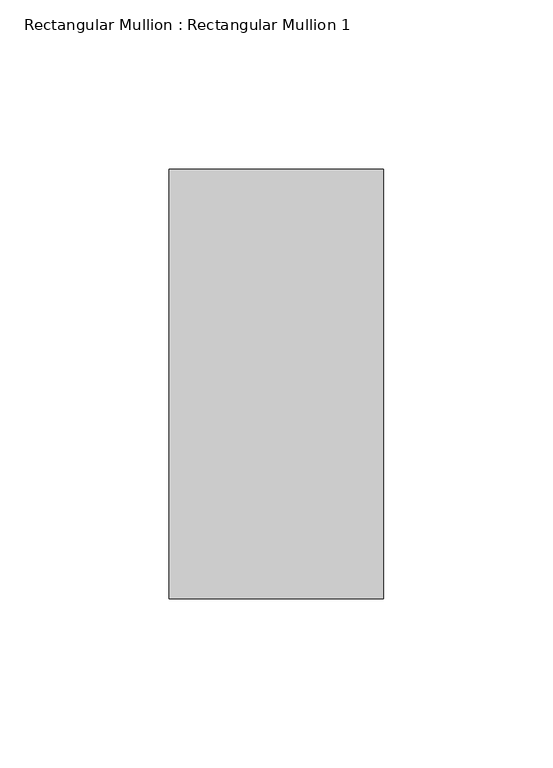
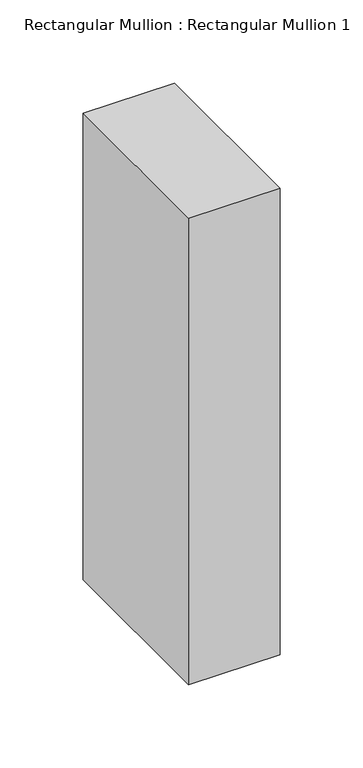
"""IFC4 building model written with IfcOpenShell, lengths in millimetres: member geometry, Rectangular Mullion : Rectangular Mullion 1."""

import ifcopenshell
import ifcopenshell.guid

model = None  # the IFC model being written
_history = None  # IfcOwnerHistory: only IFC2X3 demands one
_inside = {}  # id of a spatial element -> (the spatial element, [elements in it])
_under = {}  # id of a project, library or spatial element -> (it, [spatial elements below it])
_declared = {}  # id of a project -> (the project, [libraries it declares])
_typed = {}  # id of a type object -> (the type object, [elements of that type])
_made_of = {}  # id of a material, layer set ... -> (it, [elements and type objects made of it])


def new_model(schema):
    """Start an empty IFC model of exactly this schema.

    Asked for "IFC4X3", IfcOpenShell would pick the latest addendum, in which some entities
    have other attributes; the version numbers below select the first issue.
    IFC2X3 requires an IfcOwnerHistory on every rooted entity: one is made here for all.
    """
    global model, _history
    if schema == "IFC4X3":
        model = ifcopenshell.file(schema_version=(4, 3, 0, 0))
    else:
        model = ifcopenshell.file(schema=schema)
    _inside.clear()
    _under.clear()
    _declared.clear()
    _typed.clear()
    _made_of.clear()
    _history = None
    if model.schema == "IFC2X3":
        org = make("IfcOrganization", Name="unknown")
        user = make(
            "IfcPersonAndOrganization",
            ThePerson=make("IfcPerson", FamilyName="unknown"),
            TheOrganization=org,
        )
        app = make(
            "IfcApplication",
            ApplicationDeveloper=org,
            Version="unknown",
            ApplicationFullName="unknown",
            ApplicationIdentifier="unknown",
        )
        _history = make(
            "IfcOwnerHistory",
            OwningUser=user,
            OwningApplication=app,
            ChangeAction="ADDED",
            CreationDate=0,
        )
    return model


def make(cls, **values):
    """One entity of the class cls with the attributes given. An attribute that is None is left unset."""
    return model.create_entity(
        cls, **{name: value for name, value in values.items() if value is not None}
    )


def rooted(cls, **values):
    """An entity with a GlobalId (a new one), such as an element, a storey or a relation."""
    return make(cls, GlobalId=ifcopenshell.guid.new(), OwnerHistory=_history, **values)


def si_unit(unit_type, name, prefix=None):
    """IfcSIUnit, for example si_unit("LENGTHUNIT", "METRE", prefix="MILLI")."""
    return make("IfcSIUnit", UnitType=unit_type, Prefix=prefix, Name=name)


def assignment(units):
    """IfcUnitAssignment: the units of a project."""
    return None if units is None else make("IfcUnitAssignment", Units=units)


def point(xyz):
    """IfcCartesianPoint."""
    return None if xyz is None else make("IfcCartesianPoint", Coordinates=xyz)


def direction(xyz):
    """IfcDirection."""
    return None if xyz is None else make("IfcDirection", DirectionRatios=xyz)


def frame(location, z_axis=None, x_axis=None):
    """IfcAxis2Placement3D, a coordinate frame: its origin and axes. An axis left out is left unset."""
    return make(
        "IfcAxis2Placement3D",
        Location=point(location),
        Axis=direction(z_axis),
        RefDirection=direction(x_axis),
    )


def origin():
    """The frame at (0, 0, 0) with its axes left unset."""
    return frame((0.0, 0.0, 0.0))


def place(relative_to, where):
    """IfcLocalPlacement: puts the frame where relative to a parent placement (None: the world)."""
    return make(
        "IfcLocalPlacement", PlacementRelTo=relative_to, RelativePlacement=where
    )


def context(
    kind, dimensions, precision=None, world=None, true_north=None, identifier=None
):
    """IfcGeometricRepresentationContext, for example the 3D "Model" context."""
    return make(
        "IfcGeometricRepresentationContext",
        ContextIdentifier=identifier,
        ContextType=kind,
        CoordinateSpaceDimension=dimensions,
        Precision=precision,
        WorldCoordinateSystem=world,
        TrueNorth=true_north,
    )


def project(units=None, contexts=None):
    """IfcProject with its units and contexts."""
    return rooted(
        "IfcProject",
        Name="project",
        RepresentationContexts=contexts,
        UnitsInContext=assignment(units),
    )


def spatial(cls, under=None, at=None, **own):
    """A site, building, storey or space (cls), placed at a placement, below another one or the project."""
    s = rooted(cls, ObjectPlacement=at, **own)
    if under is not None:
        _under.setdefault(under.id(), (under, []))[1].append(s)
    return s


def polyline(points):
    """IfcPolyline through the points."""
    return make("IfcPolyline", Points=[point(p) for p in points])


def outline(outer, holes=None, kind="AREA"):
    """IfcArbitraryClosedProfileDef: a profile drawn as a closed curve; with holes, ...WithVoids."""
    if holes is None:
        return make("IfcArbitraryClosedProfileDef", ProfileType=kind, OuterCurve=outer)
    return make(
        "IfcArbitraryProfileDefWithVoids",
        ProfileType=kind,
        OuterCurve=outer,
        InnerCurves=holes,
    )


def extrude(swept, where, along, depth):
    """IfcExtrudedAreaSolid: the profile swept, set in the frame where, extruded along a direction by depth."""
    return make(
        "IfcExtrudedAreaSolid",
        SweptArea=swept,
        Position=where,
        ExtrudedDirection=direction(along),
        Depth=depth,
    )


def shape(context_of_items, identifier, shape_type, items):
    """IfcShapeRepresentation: the items that make up one representation, for example the "Body"."""
    return make(
        "IfcShapeRepresentation",
        ContextOfItems=context_of_items,
        RepresentationIdentifier=identifier,
        RepresentationType=shape_type,
        Items=items,
    )


def source(mapping_origin, context_of_items, identifier, shape_type, items):
    """IfcRepresentationMap: a shape defined once, which mapped items show again and again."""
    return make(
        "IfcRepresentationMap",
        MappingOrigin=mapping_origin,
        MappedRepresentation=shape(context_of_items, identifier, shape_type, items),
    )


def transform(
    local_origin,
    x_axis=None,
    y_axis=None,
    z_axis=None,
    scale=None,
    scale2=None,
    scale3=None,
    uniform=True,
):
    """IfcCartesianTransformationOperator3D, or its non-uniform kind. x_axis, y_axis, z_axis: its Axis1, 2, 3."""
    if uniform:
        return make(
            "IfcCartesianTransformationOperator3D",
            Axis1=direction(x_axis),
            Axis2=direction(y_axis),
            LocalOrigin=point(local_origin),
            Scale=scale,
            Axis3=direction(z_axis),
        )
    return make(
        "IfcCartesianTransformationOperator3DnonUniform",
        Axis1=direction(x_axis),
        Axis2=direction(y_axis),
        LocalOrigin=point(local_origin),
        Scale=scale,
        Axis3=direction(z_axis),
        Scale2=scale2,
        Scale3=scale3,
    )


def mapped(mapping_source, mapping_target):
    """IfcMappedItem: shows the shape of a source again, moved by a transform."""
    return make(
        "IfcMappedItem", MappingSource=mapping_source, MappingTarget=mapping_target
    )


def made_of(thing, what):
    """Note that an element or type object is made of a material, layer set ...; save() writes the relation."""
    if what is not None:
        _made_of.setdefault(what.id(), (what, []))[1].append(thing)
    return thing


def element(
    cls,
    number,
    at=None,
    inside=None,
    cuts=None,
    type_object=None,
    material=None,
    context=None,
    identifier="Body",
    shape_type=None,
    held_by="IfcProductDefinitionShape",
    body=None,
    shapes=None,
    **own,
):
    """One element of the class cls, such as IfcWall. Its Tag is "e" and its number.

    at: its placement. inside: the storey or other place that contains it. cuts: it is an
    opening in that element (IfcRelVoidsElement). A single representation is given by context,
    identifier, shape_type and body (its items); several are given by shapes. held_by: the class
    of the entity that holds the representations. save() writes the other relations.
    """
    e = rooted(cls, Tag="e%d" % number, ObjectPlacement=at, **own)
    if body is not None:
        shapes = [shape(context, identifier, shape_type, body)]
    if shapes is not None:
        e.Representation = make(held_by, Representations=shapes)
    if inside is not None:
        _inside.setdefault(inside.id(), (inside, []))[1].append(e)
    if cuts is not None:
        rooted(
            "IfcRelVoidsElement", RelatingBuildingElement=cuts, RelatedOpeningElement=e
        )
    if type_object is not None:
        _typed.setdefault(type_object.id(), (type_object, []))[1].append(e)
    return made_of(e, material)


def aggregate(whole, parts):
    """IfcRelAggregates: a whole, such as a stair, and the parts it consists of."""
    return rooted("IfcRelAggregates", RelatingObject=whole, RelatedObjects=parts)


def save(model, path):
    """Write the relations noted so far, then the file.

    IfcRelAggregates (storeys below a building ...), IfcRelContainedInSpatialStructure (elements
    in a storey), IfcRelDefinesByType, IfcRelAssociatesMaterial and IfcRelDeclares: one each for
    every whole, place, type object, material and project.
    """
    for whole, parts in _under.values():
        aggregate(whole, parts)
    for where, things in _inside.values():
        rooted(
            "IfcRelContainedInSpatialStructure",
            RelatedElements=things,
            RelatingStructure=where,
        )
    for kind, things in _typed.values():
        rooted("IfcRelDefinesByType", RelatedObjects=things, RelatingType=kind)
    for what, things in _made_of.values():
        rooted("IfcRelAssociatesMaterial", RelatedObjects=things, RelatingMaterial=what)
    for by, libraries in _declared.values():
        rooted("IfcRelDeclares", RelatingContext=by, RelatedDefinitions=libraries)
    model.write(path)


def rectangular_mullion_rectangular_mullion_1_1cede359(model_context):
    return source(origin(), model_context, "Body", "SweptSolid", [
        extrude(outline(polyline([(0.0, 63.5), (0.0, -63.5), (-63.5, -63.5), (-63.5, 63.5), (0.0, 63.5)])), frame((0.0, 0.0, -342.6209562), z_axis=(0.0, 0.0, 1.0), x_axis=(1.0, 0.0, 0.0)), (0.0, 0.0, 1.0), 342.6209562),
    ])


if __name__ == "__main__":
    model = new_model("IFC4")
    model_context = context("Model", 3, world=origin())
    ifc_project = project(units=[si_unit("LENGTHUNIT", "METRE", prefix="MILLI")], contexts=[model_context])
    site = spatial("IfcSite", under=ifc_project)
    building = spatial("IfcBuilding", under=site)
    placement = place(None, origin())
    rectangular_mullion_rectangular_mullion_1_shape = rectangular_mullion_rectangular_mullion_1_1cede359(model_context)
    element("IfcMember", 1, ObjectType="Rectangular Mullion : Rectangular Mullion 1", at=placement, inside=building, context=model_context, shape_type="MappedRepresentation", body=[
        mapped(rectangular_mullion_rectangular_mullion_1_shape, transform((0.0, 0.0, 0.0), x_axis=(1.0, 0.0, 0.0), y_axis=(0.0, 1.0, 0.0), z_axis=(0.0, 0.0, 1.0))),
    ])
    save(model, "model.ifc")
